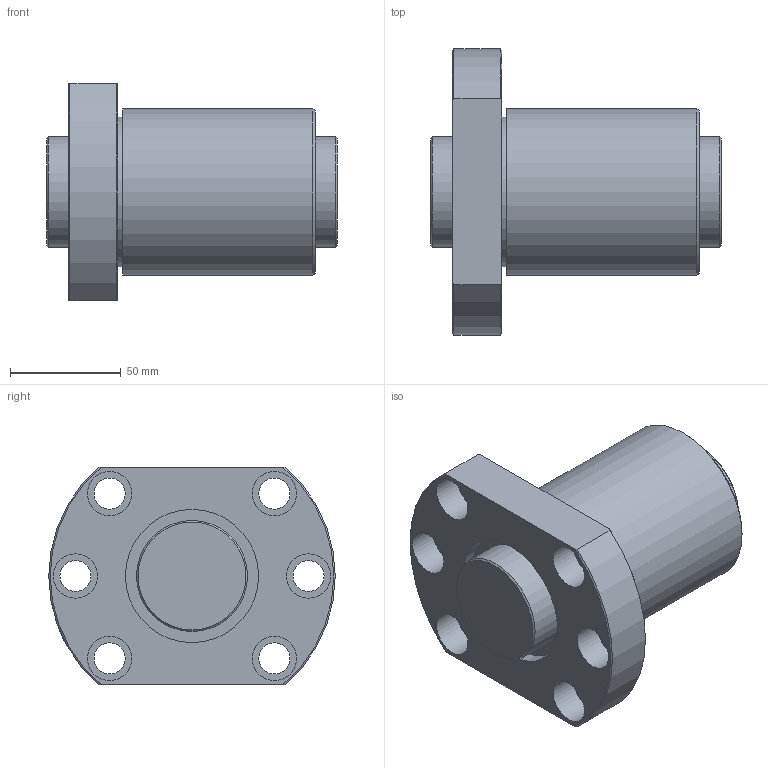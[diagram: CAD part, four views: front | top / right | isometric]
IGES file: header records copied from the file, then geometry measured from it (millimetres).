
Start section: Data from Parasolid IGES Translator 26.0.171, Copyright(c) 2006 Siemens PLM Software. All Rights Reserved.
Global section: file name: DK5016-3RRG1+131LC0_000.igs; native system: By Siemens PLM Incorporated; preprocessor: XPlus GENERIC/IGES 26.0.171; author: Noname; organization: Noname; date: 20250113.092104; units: millimetre
Bounding box: 131 x 129 x 98 mm (x, y, z)
Surface area: 98119 mm2 (no closed solid volume)
Topology: 0 solids, 0 shells, 46 faces, 190 edges, 166 vertices
Faces by surface type: revolution 30, extrusion 16
